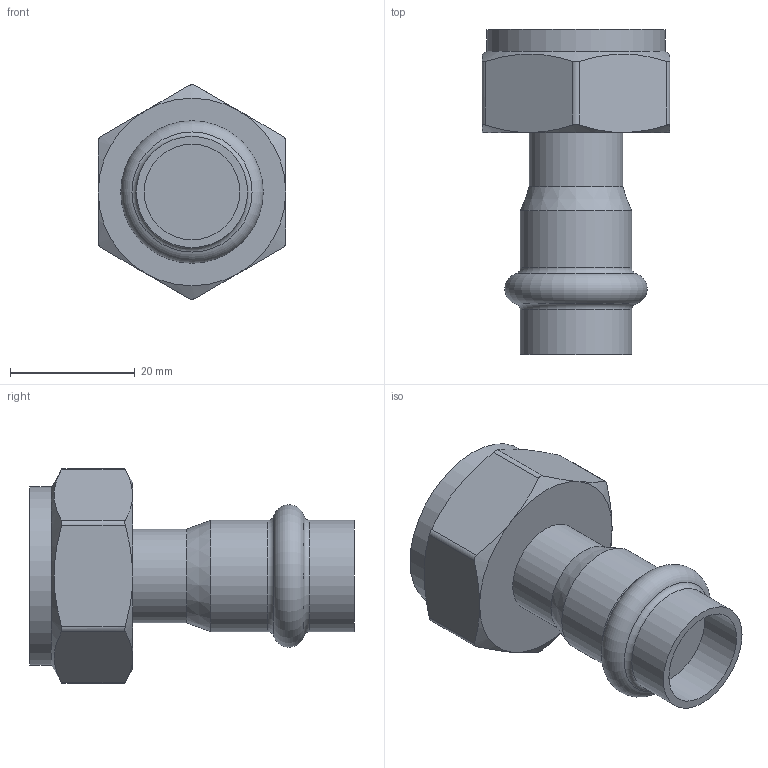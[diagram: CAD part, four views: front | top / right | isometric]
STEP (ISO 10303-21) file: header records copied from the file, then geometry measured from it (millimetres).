
FILE_DESCRIPTION(('STEP AP203'), '1');
FILE_NAME('VTi.908.I.001505', '', ('UNSPECIFIED'), ('UNSPECIFIED'), 'C3D Converter', 'C3D Toolkit', '');
FILE_SCHEMA(('CONFIG_CONTROL_DESIGN'));
Length unit declared in the file: millimetre
Bounding box: 30 x 52 x 34.33 mm (x, y, z)
Volume: 15451 mm3; surface area: 6257.4 mm2
Topology: 1 solids, 1 shells, 35 faces, 77 edges, 47 vertices
Faces by surface type: cylinder 12, plane 11, cone 9, torus 3
Full cylindrical faces by diameter (mm): 15 x1, 15.3 x1, 17.8 x2, 24.118 x1, 28.5 x1
Entity records: 1824 total; most frequent: CARTESIAN_POINT 1105, ORIENTED_EDGE 130, DIRECTION 128, EDGE_CURVE 65, AXIS2_PLACEMENT_3D 58, EDGE_LOOP 50, VERTEX_POINT 47, ADVANCED_FACE 35
